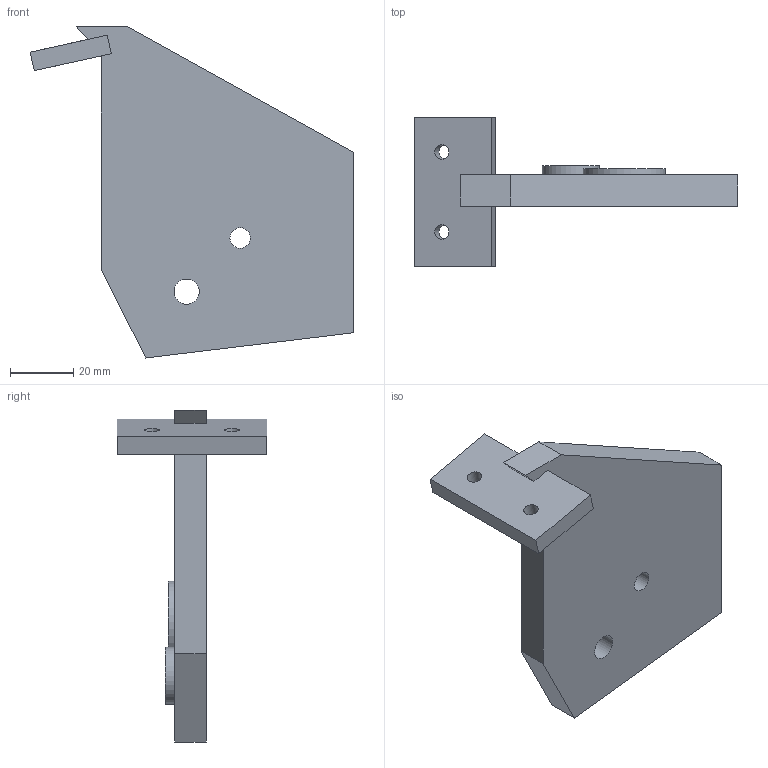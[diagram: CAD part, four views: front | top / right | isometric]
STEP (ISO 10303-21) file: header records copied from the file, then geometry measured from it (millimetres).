
FILE_DESCRIPTION(('Open CASCADE Model'),'2;1');
FILE_NAME('Open CASCADE Shape Model','2026-10-15T18:27:22',('Author'),( 'Open CASCADE'),'Open CASCADE STEP processor 7.9','Open CASCADE 7.9' ,'Unknown');
FILE_SCHEMA(('AUTOMOTIVE_DESIGN { 1 0 10303 214 1 1 1 1 }'));
Length unit declared in the file: millimetre
Products named in the file (1): Open CASCADE STEP translator 7.9 1
Bounding box: 102.57 x 47.4 x 105.2 mm (x, y, z)
Volume: 72929.9 mm3; surface area: 20246 mm2
Topology: 1 solids, 1 shells, 24 faces, 60 edges, 40 vertices
Faces by surface type: plane 18, cylinder 6
Full cylindrical faces by diameter (mm): 4.6 x2, 6.5 x1, 8 x1, 18 x1, 26 x1
Entity records: 1536 total; most frequent: CARTESIAN_POINT 321, DIRECTION 216, LINE 140, VECTOR 140, ORIENTED_EDGE 120, PCURVE 120, DEFINITIONAL_REPRESENTATION 120, EDGE_CURVE 60
